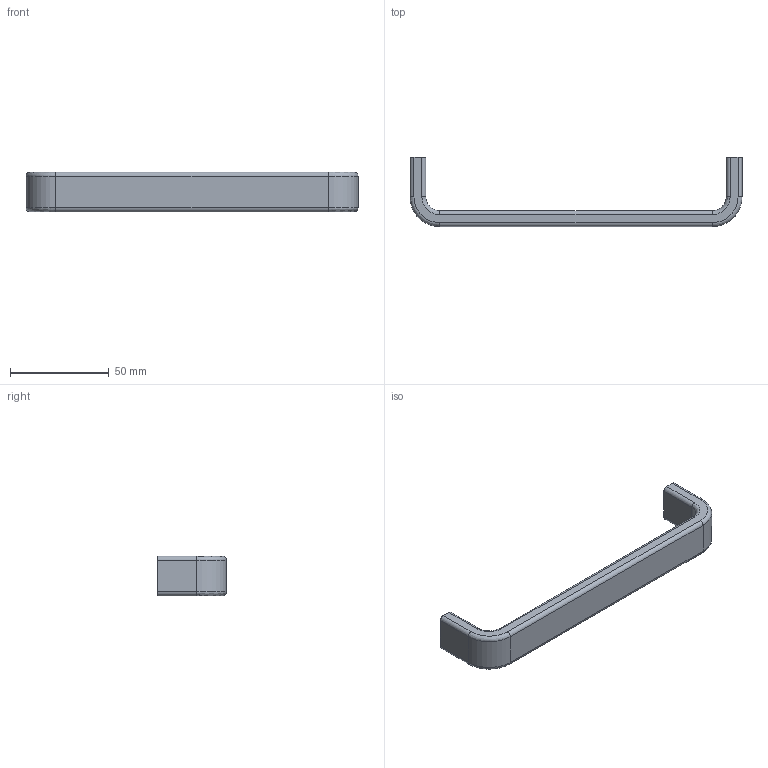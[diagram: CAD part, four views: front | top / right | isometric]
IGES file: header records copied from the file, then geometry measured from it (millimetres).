
Start section: Data from Parasolid IGES Translator 15.0.47, Copyright(c) 2006 Siemens P LM Software. All Rights Reserved.
Global section: file name:  115148.igs; native system:  By UGS Corp.; preprocessor: XPlus GENERIC/IGES 3.0; author: Noname; organization: Noname; date: 20140122.160101; units: millimetre
Bounding box: 168 x 35 x 20 mm (x, y, z)
Surface area: 11800.7 mm2 (no closed solid volume)
Topology: 0 solids, 0 shells, 38 faces, 172 edges, 170 vertices
Faces by surface type: revolution 26, extrusion 12
